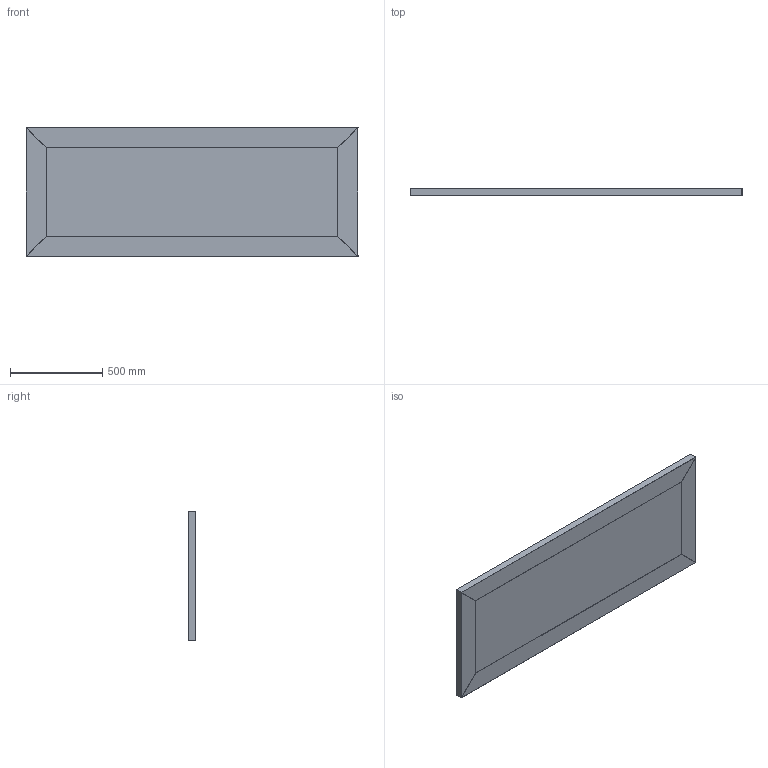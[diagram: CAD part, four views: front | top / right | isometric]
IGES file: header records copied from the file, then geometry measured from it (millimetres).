
Global section: file name: \\Archi-NAS\Comune\X GIOVANNI\SPECCHI\MIRR WOOD\MIRR WOOD_SIMPLE.igs; native system: Rhinoceros ( Feb 23 2021 ); preprocessor: Trout Lake IGES 012 Feb 23 2021; date: 230608.081949; units: millimetre
Bounding box: 1800 x 40 x 700 mm (x, y, z)
Surface area: 2969699.6 mm2 (no closed solid volume)
Topology: 0 solids, 0 shells, 46 faces, 454 edges, 458 vertices
Faces by surface type: bspline 46
